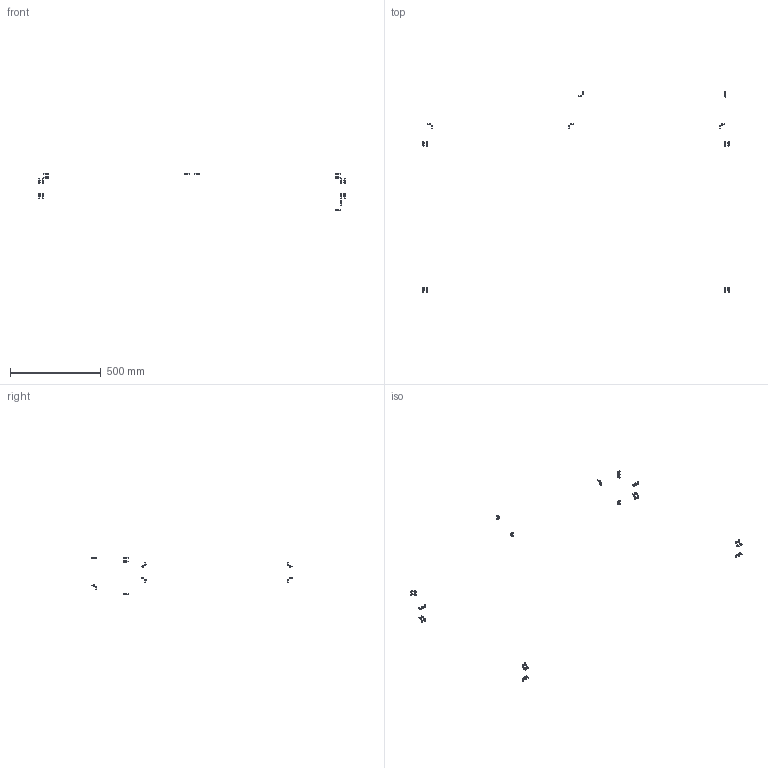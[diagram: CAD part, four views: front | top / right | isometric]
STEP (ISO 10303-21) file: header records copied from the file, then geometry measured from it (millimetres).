
FILE_DESCRIPTION(/* description */ (''),/* implementation_level */ '2;1');
FILE_NAME(/* name */ 'FRD0D4~1',/* time_stamp */ '2014-02-14T19:33:00+01:00',/* author */ (''),/* organization */ (''),/* preprocessor_version */ 'ST-DEVELOPER v14',/* originating_system */ '',/* authorisation */ '');
FILE_SCHEMA (('AUTOMOTIVE_DESIGN'));
Length unit declared in the file: millimetre
Products named in the file (2): Document; screw DIN912-like, M5x10
Assembly tree (26 placements, depth 2):
  Document
    screw DIN912-like, M5x10  x26
Bounding box: 1688.5 x 1101 x 208.5 mm (x, y, z)
Volume: 21043.5 mm3; surface area: 20464.9 mm2
Topology: 48 solids, 48 shells, 1200 faces, 2688 edges, 1584 vertices
Faces by surface type: plane 720, bspline 480
Entity records: 31437 total; most frequent: CARTESIAN_POINT 14473, B_SPLINE_CURVE_WITH_KNOTS 2898, ORIENTED_EDGE 2484, PCURVE 2484, DEFINITIONAL_REPRESENTATION 2484, SURFACE_CURVE 1242, EDGE_CURVE 1242, VERTEX_POINT 759
